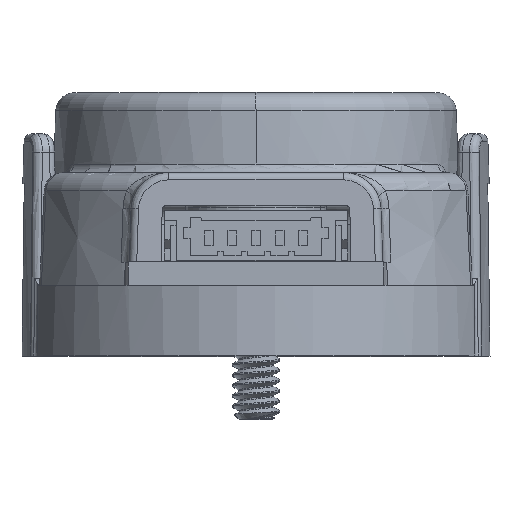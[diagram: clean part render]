
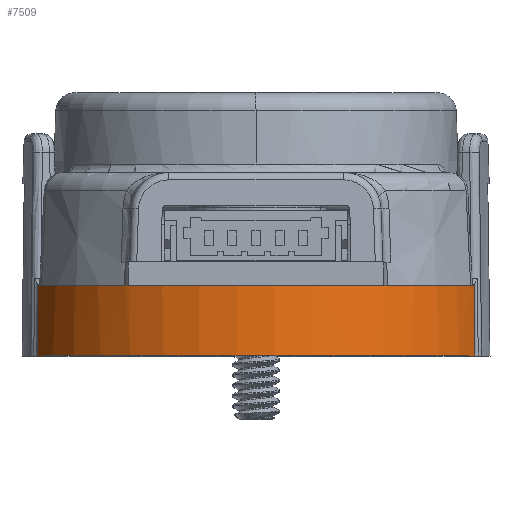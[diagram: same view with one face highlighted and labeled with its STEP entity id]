
A CAD part, top view. The second image highlights one B-rep face of the part: STEP entity #7509.
In plain terms, the highlighted conical face has half-angle 1 degrees and reference radius 7.875 mm.
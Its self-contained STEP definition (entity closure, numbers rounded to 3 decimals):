
#1753 = VERTEX_POINT('',#1754);
#1754 = CARTESIAN_POINT('',(4.318,0.,6.536));
#2705 = VERTEX_POINT('',#2706);
#2706 = CARTESIAN_POINT('',(-4.318,0.,6.536));
#4655 = EDGE_CURVE('',#1753,#4656,#4658,.T.);
#4656 = VERTEX_POINT('',#4657);
#4657 = CARTESIAN_POINT('',(4.443,0.,
    6.452));
#4658 = CIRCLE('',#4659,7.833);
#4659 = AXIS2_PLACEMENT_3D('',#4660,#4661,#4662);
#4660 = CARTESIAN_POINT('',(0.,0.,0.));
#4661 = DIRECTION('',(0.,1.,0.));
#4662 = DIRECTION('',(0.,0.,1.));
#4691 = EDGE_CURVE('',#2705,#1753,#4692,.T.);
#4692 = CIRCLE('',#4693,7.833);
#4693 = AXIS2_PLACEMENT_3D('',#4694,#4695,#4696);
#4694 = CARTESIAN_POINT('',(0.,0.,0.));
#4695 = DIRECTION('',(0.,1.,0.));
#4696 = DIRECTION('',(0.,0.,1.));
#6697 = VERTEX_POINT('',#6698);
#6698 = CARTESIAN_POINT('',(-4.443,0.,
    6.452));
#6704 = EDGE_CURVE('',#6697,#2705,#6705,.T.);
#6705 = CIRCLE('',#6706,7.833);
#6706 = AXIS2_PLACEMENT_3D('',#6707,#6708,#6709);
#6707 = CARTESIAN_POINT('',(0.,0.,0.));
#6708 = DIRECTION('',(0.,1.,0.));
#6709 = DIRECTION('',(0.,0.,1.));
#7509 = ADVANCED_FACE('',(#7510),#7600,.T.);
#7510 = FACE_BOUND('',#7511,.T.);
#7511 = EDGE_LOOP('',(#7512,#7523,#7535,#7544,#7556,#7565,#7574,#7581,
    #7582,#7583,#7584,#7593));
#7512 = ORIENTED_EDGE('',*,*,#7513,.T.);
#7513 = EDGE_CURVE('',#7514,#7516,#7518,.T.);
#7514 = VERTEX_POINT('',#7515);
#7515 = CARTESIAN_POINT('',(-7.33,0.,2.763));
#7516 = VERTEX_POINT('',#7517);
#7517 = CARTESIAN_POINT('',(-7.383,0.049,
    2.614));
#7518 = B_SPLINE_CURVE_WITH_KNOTS('',3,(#7519,#7520,#7521,#7522),
  .UNSPECIFIED.,.F.,.F.,(4,4),(0.,0.),
  .PIECEWISE_BEZIER_KNOTS.);
#7519 = CARTESIAN_POINT('',(-7.33,0.,2.763));
#7520 = CARTESIAN_POINT('',(-7.35,0.,2.71));
#7521 = CARTESIAN_POINT('',(-7.368,0.017,
    2.658));
#7522 = CARTESIAN_POINT('',(-7.383,0.049,
    2.614));
#7523 = ORIENTED_EDGE('',*,*,#7524,.T.);
#7524 = EDGE_CURVE('',#7516,#7525,#7527,.T.);
#7525 = VERTEX_POINT('',#7526);
#7526 = CARTESIAN_POINT('',(-7.409,-2.388,2.669));
#7527 = B_SPLINE_CURVE_WITH_KNOTS('',3,(#7528,#7529,#7530,#7531,#7532,
    #7533,#7534),.UNSPECIFIED.,.F.,.F.,(4,3,4),(0.,
    0.001,0.002),.UNSPECIFIED.);
#7528 = CARTESIAN_POINT('',(-7.383,0.049,
    2.614));
#7529 = CARTESIAN_POINT('',(-7.387,-0.277,
    2.621));
#7530 = CARTESIAN_POINT('',(-7.39,-0.604,
    2.629));
#7531 = CARTESIAN_POINT('',(-7.394,-0.93,2.636
    ));
#7532 = CARTESIAN_POINT('',(-7.399,-1.416,
    2.647));
#7533 = CARTESIAN_POINT('',(-7.404,-1.902,
    2.658));
#7534 = CARTESIAN_POINT('',(-7.409,-2.388,2.669));
#7535 = ORIENTED_EDGE('',*,*,#7536,.F.);
#7536 = EDGE_CURVE('',#7537,#7525,#7539,.T.);
#7537 = VERTEX_POINT('',#7538);
#7538 = CARTESIAN_POINT('',(7.409,-2.388,2.669));
#7539 = CIRCLE('',#7540,7.875);
#7540 = AXIS2_PLACEMENT_3D('',#7541,#7542,#7543);
#7541 = CARTESIAN_POINT('',(0.,-2.388,0.));
#7542 = DIRECTION('',(0.,-1.,0.));
#7543 = DIRECTION('',(0.,0.,-1.));
#7544 = ORIENTED_EDGE('',*,*,#7545,.T.);
#7545 = EDGE_CURVE('',#7537,#7546,#7548,.T.);
#7546 = VERTEX_POINT('',#7547);
#7547 = CARTESIAN_POINT('',(7.383,0.049,
    2.614));
#7548 = B_SPLINE_CURVE_WITH_KNOTS('',3,(#7549,#7550,#7551,#7552,#7553,
    #7554,#7555),.UNSPECIFIED.,.F.,.F.,(4,3,4),(0.,
    0.001,0.002),.UNSPECIFIED.);
#7549 = CARTESIAN_POINT('',(7.409,-2.388,2.669));
#7550 = CARTESIAN_POINT('',(7.406,-2.061,
    2.661));
#7551 = CARTESIAN_POINT('',(7.402,-1.735,
    2.654));
#7552 = CARTESIAN_POINT('',(7.399,-1.409,
    2.647));
#7553 = CARTESIAN_POINT('',(7.394,-0.923,
    2.636));
#7554 = CARTESIAN_POINT('',(7.389,-0.437,
    2.625));
#7555 = CARTESIAN_POINT('',(7.383,0.049,
    2.614));
#7556 = ORIENTED_EDGE('',*,*,#7557,.T.);
#7557 = EDGE_CURVE('',#7546,#7558,#7560,.T.);
#7558 = VERTEX_POINT('',#7559);
#7559 = CARTESIAN_POINT('',(7.33,0.,2.763));
#7560 = B_SPLINE_CURVE_WITH_KNOTS('',3,(#7561,#7562,#7563,#7564),
  .UNSPECIFIED.,.F.,.F.,(4,4),(0.,0.),
  .PIECEWISE_BEZIER_KNOTS.);
#7561 = CARTESIAN_POINT('',(7.383,0.049,
    2.614));
#7562 = CARTESIAN_POINT('',(7.368,0.017,
    2.658));
#7563 = CARTESIAN_POINT('',(7.35,0.,
    2.71));
#7564 = CARTESIAN_POINT('',(7.33,0.,2.763));
#7565 = ORIENTED_EDGE('',*,*,#7566,.F.);
#7566 = EDGE_CURVE('',#7567,#7558,#7569,.T.);
#7567 = VERTEX_POINT('',#7568);
#7568 = CARTESIAN_POINT('',(7.288,0.,
    2.872));
#7569 = CIRCLE('',#7570,7.833);
#7570 = AXIS2_PLACEMENT_3D('',#7571,#7572,#7573);
#7571 = CARTESIAN_POINT('',(0.,0.,0.));
#7572 = DIRECTION('',(0.,1.,0.));
#7573 = DIRECTION('',(0.,0.,1.));
#7574 = ORIENTED_EDGE('',*,*,#7575,.F.);
#7575 = EDGE_CURVE('',#4656,#7567,#7576,.T.);
#7576 = CIRCLE('',#7577,7.833);
#7577 = AXIS2_PLACEMENT_3D('',#7578,#7579,#7580);
#7578 = CARTESIAN_POINT('',(0.,0.,0.));
#7579 = DIRECTION('',(0.,1.,0.));
#7580 = DIRECTION('',(0.,0.,1.));
#7581 = ORIENTED_EDGE('',*,*,#4655,.F.);
#7582 = ORIENTED_EDGE('',*,*,#4691,.F.);
#7583 = ORIENTED_EDGE('',*,*,#6704,.F.);
#7584 = ORIENTED_EDGE('',*,*,#7585,.F.);
#7585 = EDGE_CURVE('',#7586,#6697,#7588,.T.);
#7586 = VERTEX_POINT('',#7587);
#7587 = CARTESIAN_POINT('',(-7.288,0.,
    2.872));
#7588 = CIRCLE('',#7589,7.833);
#7589 = AXIS2_PLACEMENT_3D('',#7590,#7591,#7592);
#7590 = CARTESIAN_POINT('',(0.,0.,0.));
#7591 = DIRECTION('',(0.,1.,0.));
#7592 = DIRECTION('',(0.,0.,1.));
#7593 = ORIENTED_EDGE('',*,*,#7594,.F.);
#7594 = EDGE_CURVE('',#7514,#7586,#7595,.T.);
#7595 = CIRCLE('',#7596,7.833);
#7596 = AXIS2_PLACEMENT_3D('',#7597,#7598,#7599);
#7597 = CARTESIAN_POINT('',(0.,0.,0.));
#7598 = DIRECTION('',(0.,1.,0.));
#7599 = DIRECTION('',(0.,0.,1.));
#7600 = CONICAL_SURFACE('',#7601,7.875,0.017);
#7601 = AXIS2_PLACEMENT_3D('',#7602,#7603,#7604);
#7602 = CARTESIAN_POINT('',(0.,-2.388,0.));
#7603 = DIRECTION('',(0.,-1.,0.));
#7604 = DIRECTION('',(0.,0.,-1.));
